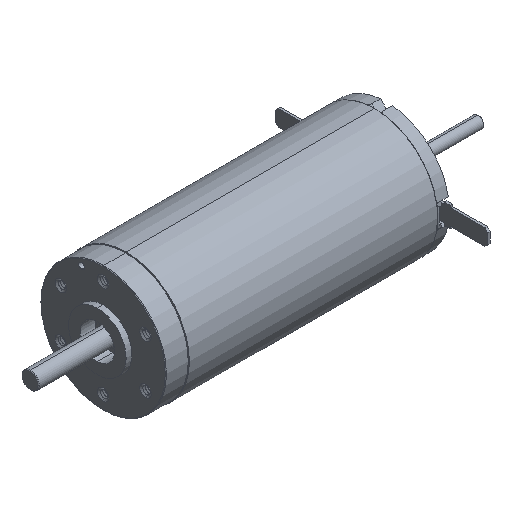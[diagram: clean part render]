
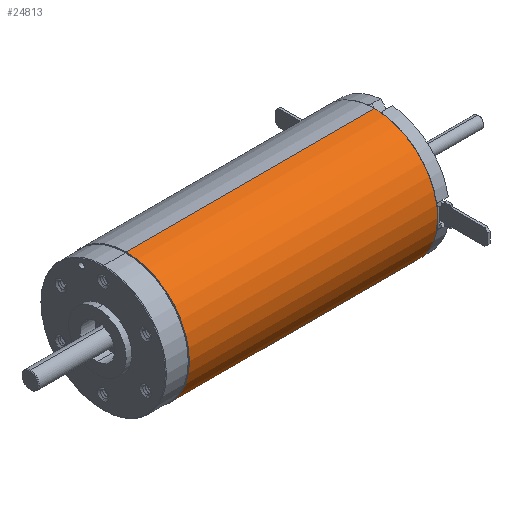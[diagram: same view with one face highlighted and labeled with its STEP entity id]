
A CAD part, isometric view. The second image highlights one B-rep face of the part: STEP entity #24813.
In plain terms, the highlighted cylindrical face has radius 11 mm (diameter 22 mm), a partial arc.
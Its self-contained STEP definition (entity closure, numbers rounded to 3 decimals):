
#565 = DIRECTION ( 'NONE',  ( 0., 0., 1. ) ) ;
#3423 = CARTESIAN_POINT ( 'NONE',  ( 25.6, 0., -11. ) ) ;
#3709 = ORIENTED_EDGE ( 'NONE', *, *, #36090, .T. ) ;
#3926 = ORIENTED_EDGE ( 'NONE', *, *, #10341, .T. ) ;
#6088 = EDGE_CURVE ( 'NONE', #15688, #15362, #27369, .T. ) ;
#6603 = CARTESIAN_POINT ( 'NONE',  ( 47.2, 0., -11. ) ) ;
#6817 = CARTESIAN_POINT ( 'NONE',  ( 25.6, 0., 0. ) ) ;
#8764 = EDGE_CURVE ( 'NONE', #15688, #24597, #35963, .T. ) ;
#10341 = EDGE_CURVE ( 'NONE', #24597, #28660, #14206, .T. ) ;
#12679 = EDGE_LOOP ( 'NONE', ( #13792, #32056, #3926, #3709 ) ) ;
#13792 = ORIENTED_EDGE ( 'NONE', *, *, #6088, .F. ) ;
#14206 = LINE ( 'NONE', #29960, #29596 ) ;
#14955 = AXIS2_PLACEMENT_3D ( 'NONE', #37529, #19051, #565 ) ;
#15362 = VERTEX_POINT ( 'NONE', #22394 ) ;
#15675 = DIRECTION ( 'NONE',  ( 1., 0., 0. ) ) ;
#15688 = VERTEX_POINT ( 'NONE', #6603 ) ;
#15774 = DIRECTION ( 'NONE',  ( -1., 0., 0. ) ) ;
#19051 = DIRECTION ( 'NONE',  ( -1., 0., 0. ) ) ;
#19064 = DIRECTION ( 'NONE',  ( -1., 0., 0. ) ) ;
#22394 = CARTESIAN_POINT ( 'NONE',  ( 4., 0., -11. ) ) ;
#24597 = VERTEX_POINT ( 'NONE', #36326 ) ;
#24813 = ADVANCED_FACE ( 'NONE', ( #33756 ), #29870, .T. ) ;
#25392 = DIRECTION ( 'NONE',  ( 0., 0., 1. ) ) ;
#26815 = CARTESIAN_POINT ( 'NONE',  ( 4., 0., 11. ) ) ;
#27369 = LINE ( 'NONE', #3423, #30239 ) ;
#28142 = AXIS2_PLACEMENT_3D ( 'NONE', #34100, #15675, #37216 ) ;
#28660 = VERTEX_POINT ( 'NONE', #26815 ) ;
#29530 = AXIS2_PLACEMENT_3D ( 'NONE', #6817, #19064, #25392 ) ;
#29596 = VECTOR ( 'NONE', #29833, 1000. ) ;
#29833 = DIRECTION ( 'NONE',  ( -1., 0., 0. ) ) ;
#29870 = CYLINDRICAL_SURFACE ( 'NONE', #29530, 11. ) ;
#29960 = CARTESIAN_POINT ( 'NONE',  ( 25.6, 0., 11. ) ) ;
#30239 = VECTOR ( 'NONE', #15774, 1000. ) ;
#32056 = ORIENTED_EDGE ( 'NONE', *, *, #8764, .T. ) ;
#33756 = FACE_OUTER_BOUND ( 'NONE', #12679, .T. ) ;
#34100 = CARTESIAN_POINT ( 'NONE',  ( 4., 0., 0. ) ) ;
#35963 = CIRCLE ( 'NONE', #14955, 11. ) ;
#36090 = EDGE_CURVE ( 'NONE', #28660, #15362, #37746, .T. ) ;
#36326 = CARTESIAN_POINT ( 'NONE',  ( 47.2, 0., 11. ) ) ;
#37216 = DIRECTION ( 'NONE',  ( 0., 0., 1. ) ) ;
#37529 = CARTESIAN_POINT ( 'NONE',  ( 47.2, 0., 0. ) ) ;
#37746 = CIRCLE ( 'NONE', #28142, 11. ) ;
